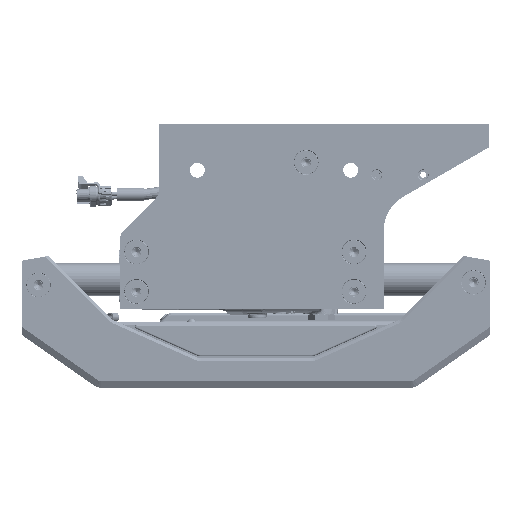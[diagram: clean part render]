
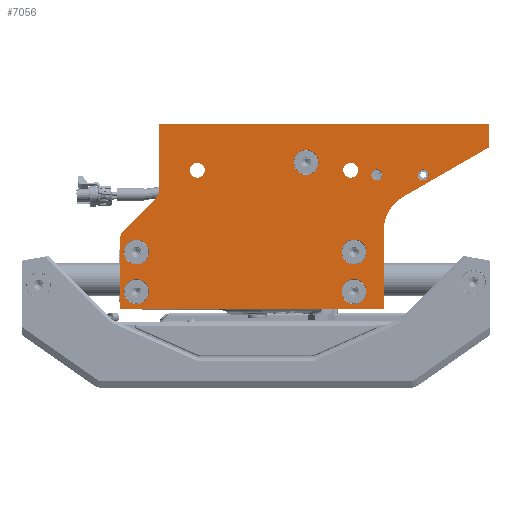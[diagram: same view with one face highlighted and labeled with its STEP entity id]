
A CAD part, left-side view. The second image highlights one B-rep face of the part: STEP entity #7056.
In plain terms, the highlighted planar face has unit normal (-1, 0, 0) as drawn and (1, 0, 0) by its records, which use the part's own axes.
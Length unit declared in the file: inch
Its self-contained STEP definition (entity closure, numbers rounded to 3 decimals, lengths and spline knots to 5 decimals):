
#5379=DIRECTION('',(0.,0.,1.));
#5380=VECTOR('',#5379,0.875);
#5381=CARTESIAN_POINT('',(0.,0.,0.));
#5382=LINE('',#5381,#5380);
#5627=CARTESIAN_POINT('',(0.,5.125,6.35));
#5628=DIRECTION('',(-1.,0.,0.));
#5629=DIRECTION('',(0.,-1.,0.));
#5630=AXIS2_PLACEMENT_3D('',#5627,#5628,#5629);
#5632=CARTESIAN_POINT('',(0.,5.125,6.35));
#5633=DIRECTION('',(-1.,0.,0.));
#5634=DIRECTION('',(0.,1.,0.));
#5635=AXIS2_PLACEMENT_3D('',#5632,#5633,#5634);
#5637=CARTESIAN_POINT('',(0.,13.375,6.35));
#5638=DIRECTION('',(-1.,0.,0.));
#5639=DIRECTION('',(0.,-1.,0.));
#5640=AXIS2_PLACEMENT_3D('',#5637,#5638,#5639);
#5642=CARTESIAN_POINT('',(0.,13.375,6.35));
#5643=DIRECTION('',(-1.,0.,0.));
#5644=DIRECTION('',(0.,1.,0.));
#5645=AXIS2_PLACEMENT_3D('',#5642,#5643,#5644);
#5647=CARTESIAN_POINT('',(0.,5.125,4.85));
#5648=DIRECTION('',(-1.,0.,0.));
#5649=DIRECTION('',(0.,-1.,0.));
#5650=AXIS2_PLACEMENT_3D('',#5647,#5648,#5649);
#5652=CARTESIAN_POINT('',(0.,5.125,4.85));
#5653=DIRECTION('',(-1.,0.,0.));
#5654=DIRECTION('',(0.,1.,0.));
#5655=AXIS2_PLACEMENT_3D('',#5652,#5653,#5654);
#5657=CARTESIAN_POINT('',(0.,13.375,4.85));
#5658=DIRECTION('',(-1.,0.,0.));
#5659=DIRECTION('',(0.,-1.,0.));
#5660=AXIS2_PLACEMENT_3D('',#5657,#5658,#5659);
#5662=CARTESIAN_POINT('',(0.,13.375,4.85));
#5663=DIRECTION('',(-1.,0.,0.));
#5664=DIRECTION('',(0.,1.,0.));
#5665=AXIS2_PLACEMENT_3D('',#5662,#5663,#5664);
#5667=CARTESIAN_POINT('',(0.,11.065,1.75));
#5668=DIRECTION('',(-1.,0.,0.));
#5669=DIRECTION('',(0.,0.,1.));
#5670=AXIS2_PLACEMENT_3D('',#5667,#5668,#5669);
#5672=CARTESIAN_POINT('',(0.,11.065,1.75));
#5673=DIRECTION('',(-1.,0.,0.));
#5674=DIRECTION('',(0.,0.,-1.));
#5675=AXIS2_PLACEMENT_3D('',#5672,#5673,#5674);
#5677=CARTESIAN_POINT('',(0.,5.25,1.75));
#5678=DIRECTION('',(-1.,0.,0.));
#5679=DIRECTION('',(0.,0.,1.));
#5680=AXIS2_PLACEMENT_3D('',#5677,#5678,#5679);
#5682=CARTESIAN_POINT('',(0.,5.25,1.75));
#5683=DIRECTION('',(-1.,0.,0.));
#5684=DIRECTION('',(0.,0.,-1.));
#5685=AXIS2_PLACEMENT_3D('',#5682,#5683,#5684);
#5687=CARTESIAN_POINT('',(0.,6.94,1.45));
#5688=DIRECTION('',(1.,0.,0.));
#5689=DIRECTION('',(0.,0.,1.));
#5690=AXIS2_PLACEMENT_3D('',#5687,#5688,#5689);
#5692=CARTESIAN_POINT('',(0.,6.94,1.45));
#5693=DIRECTION('',(1.,0.,0.));
#5694=DIRECTION('',(0.,0.,-1.));
#5695=AXIS2_PLACEMENT_3D('',#5692,#5693,#5694);
#5697=CARTESIAN_POINT('',(0.,4.25834,1.92126));
#5698=DIRECTION('',(1.,0.,0.));
#5699=DIRECTION('',(0.,-1.,0.));
#5700=AXIS2_PLACEMENT_3D('',#5697,#5698,#5699);
#5702=CARTESIAN_POINT('',(0.,4.25834,1.92126));
#5703=DIRECTION('',(1.,0.,0.));
#5704=DIRECTION('',(0.,1.,0.));
#5705=AXIS2_PLACEMENT_3D('',#5702,#5703,#5704);
#5707=CARTESIAN_POINT('',(0.,2.5,1.92126));
#5708=DIRECTION('',(1.,0.,0.));
#5709=DIRECTION('',(0.,-1.,0.));
#5710=AXIS2_PLACEMENT_3D('',#5707,#5708,#5709);
#5712=CARTESIAN_POINT('',(0.,2.5,1.92126));
#5713=DIRECTION('',(1.,0.,0.));
#5714=DIRECTION('',(0.,1.,0.));
#5715=AXIS2_PLACEMENT_3D('',#5712,#5713,#5714);
#5717=DIRECTION('',(0.,0.,1.));
#5718=VECTOR('',#5717,2.46289);
#5719=CARTESIAN_POINT('',(0.,12.5,0.));
#5720=LINE('',#5719,#5718);
#5721=DIRECTION('',(0.,1.,0.));
#5722=VECTOR('',#5721,12.5);
#5723=CARTESIAN_POINT('',(0.,0.,0.));
#5724=LINE('',#5723,#5722);
#5725=DIRECTION('',(0.,-0.866,-0.5));
#5726=VECTOR('',#5725,3.75278);
#5727=CARTESIAN_POINT('',(0.,3.25,2.75139));
#5728=LINE('',#5727,#5726);
#5729=CARTESIAN_POINT('',(0.,2.5,4.05043));
#5730=DIRECTION('',(-1.,0.,0.));
#5731=DIRECTION('',(0.,1.,0.));
#5732=AXIS2_PLACEMENT_3D('',#5729,#5730,#5731);
#5734=DIRECTION('',(0.,0.,-1.));
#5735=VECTOR('',#5734,2.94957);
#5736=CARTESIAN_POINT('',(0.,4.,7.));
#5737=LINE('',#5736,#5735);
#5738=DIRECTION('',(0.,1.,0.));
#5739=VECTOR('',#5738,10.);
#5740=CARTESIAN_POINT('',(0.,4.,7.));
#5741=LINE('',#5740,#5739);
#5742=CARTESIAN_POINT('',(0.,13.5,4.37711));
#5743=DIRECTION('',(-1.,0.,0.));
#5744=DIRECTION('',(0.,1.,0.));
#5745=AXIS2_PLACEMENT_3D('',#5742,#5743,#5744);
#5747=DIRECTION('',(0.,0.707,0.707));
#5748=VECTOR('',#5747,1.70711);
#5749=CARTESIAN_POINT('',(0.,12.64645,2.81645));
#5750=LINE('',#5749,#5748);
#6278=CARTESIAN_POINT('',(0.,13.,2.46289));
#6279=DIRECTION('',(1.,0.,0.));
#6280=DIRECTION('',(0.,-0.707,0.707));
#6281=AXIS2_PLACEMENT_3D('',#6278,#6279,#6280);
#6287=DIRECTION('',(0.,0.,1.));
#6288=VECTOR('',#6287,2.62289);
#6289=CARTESIAN_POINT('',(0.,14.,4.37711));
#6290=LINE('',#6289,#6288);
#6361=CARTESIAN_POINT('',(0.,14.,7.));
#6363=VERTEX_POINT('',#6361);
#6370=CARTESIAN_POINT('',(0.,0.,0.));
#6371=CARTESIAN_POINT('',(0.,12.5,0.));
#6372=VERTEX_POINT('',#6370);
#6373=VERTEX_POINT('',#6371);
#6375=CARTESIAN_POINT('',(0.,0.,0.875));
#6377=VERTEX_POINT('',#6375);
#6386=CARTESIAN_POINT('',(0.,3.25,2.75139));
#6387=VERTEX_POINT('',#6386);
#6388=CARTESIAN_POINT('',(0.,4.,7.));
#6389=CARTESIAN_POINT('',(0.,4.,4.05043));
#6390=VERTEX_POINT('',#6388);
#6391=VERTEX_POINT('',#6389);
#6417=CARTESIAN_POINT('',(0.,4.6525,6.35));
#6419=VERTEX_POINT('',#6417);
#6421=CARTESIAN_POINT('',(0.,5.5975,6.35));
#6423=VERTEX_POINT('',#6421);
#6425=CARTESIAN_POINT('',(0.,12.9025,6.35));
#6427=VERTEX_POINT('',#6425);
#6429=CARTESIAN_POINT('',(0.,13.8475,6.35));
#6431=VERTEX_POINT('',#6429);
#6433=CARTESIAN_POINT('',(0.,4.6525,4.85));
#6435=VERTEX_POINT('',#6433);
#6437=CARTESIAN_POINT('',(0.,5.5975,4.85));
#6439=VERTEX_POINT('',#6437);
#6441=CARTESIAN_POINT('',(0.,12.9025,4.85));
#6443=VERTEX_POINT('',#6441);
#6445=CARTESIAN_POINT('',(0.,13.8475,4.85));
#6447=VERTEX_POINT('',#6445);
#6488=CARTESIAN_POINT('',(0.,14.,4.37711));
#6489=CARTESIAN_POINT('',(0.,13.85355,4.02355));
#6490=VERTEX_POINT('',#6488);
#6491=VERTEX_POINT('',#6489);
#6504=CARTESIAN_POINT('',(0.,11.065,2.0315));
#6505=VERTEX_POINT('',#6504);
#6506=CARTESIAN_POINT('',(0.,11.065,1.4685));
#6507=VERTEX_POINT('',#6506);
#6508=CARTESIAN_POINT('',(0.,5.25,2.0315));
#6509=VERTEX_POINT('',#6508);
#6510=CARTESIAN_POINT('',(0.,5.25,1.4685));
#6511=VERTEX_POINT('',#6510);
#6540=CARTESIAN_POINT('',(0.,6.94,1.9225));
#6541=CARTESIAN_POINT('',(0.,6.94,0.9775));
#6542=VERTEX_POINT('',#6540);
#6543=VERTEX_POINT('',#6541);
#6544=CARTESIAN_POINT('',(0.,12.64645,2.81645));
#6546=VERTEX_POINT('',#6544);
#6548=CARTESIAN_POINT('',(0.,12.5,2.46289));
#6550=VERTEX_POINT('',#6548);
#6616=CARTESIAN_POINT('',(0.,4.05084,1.92126));
#6617=CARTESIAN_POINT('',(0.,4.46584,1.92126));
#6618=VERTEX_POINT('',#6616);
#6619=VERTEX_POINT('',#6617);
#6624=CARTESIAN_POINT('',(0.,2.2925,1.92126));
#6625=CARTESIAN_POINT('',(0.,2.7075,1.92126));
#6626=VERTEX_POINT('',#6624);
#6627=VERTEX_POINT('',#6625);
#6976=CARTESIAN_POINT('',(0.,0.,0.));
#6977=DIRECTION('',(-1.,0.,0.));
#6978=DIRECTION('',(0.,0.,1.));
#6979=AXIS2_PLACEMENT_3D('',#6976,#6977,#6978);
#6980=PLANE('',#6979);
#6981=ORIENTED_EDGE('',*,*,#6964,.F.);
#6982=ORIENTED_EDGE('',*,*,#6804,.F.);
#6983=ORIENTED_EDGE('',*,*,#6645,.T.);
#6985=ORIENTED_EDGE('',*,*,#6984,.F.);
#6987=ORIENTED_EDGE('',*,*,#6986,.F.);
#6989=ORIENTED_EDGE('',*,*,#6988,.F.);
#6991=ORIENTED_EDGE('',*,*,#6990,.T.);
#6993=ORIENTED_EDGE('',*,*,#6992,.F.);
#6995=ORIENTED_EDGE('',*,*,#6994,.T.);
#6997=ORIENTED_EDGE('',*,*,#6996,.F.);
#6999=ORIENTED_EDGE('',*,*,#6998,.T.);
#7000=EDGE_LOOP('',(#6981,#6982,#6983,#6985,#6987,#6989,#6991,#6993,#6995,#6997,
#6999));
#7001=FACE_OUTER_BOUND('',#7000,.F.);
#7003=ORIENTED_EDGE('',*,*,#7002,.F.);
#7005=ORIENTED_EDGE('',*,*,#7004,.F.);
#7006=EDGE_LOOP('',(#7003,#7005));
#7007=FACE_BOUND('',#7006,.F.);
#7009=ORIENTED_EDGE('',*,*,#7008,.F.);
#7011=ORIENTED_EDGE('',*,*,#7010,.F.);
#7012=EDGE_LOOP('',(#7009,#7011));
#7013=FACE_BOUND('',#7012,.F.);
#7015=ORIENTED_EDGE('',*,*,#7014,.F.);
#7017=ORIENTED_EDGE('',*,*,#7016,.F.);
#7018=EDGE_LOOP('',(#7015,#7017));
#7019=FACE_BOUND('',#7018,.F.);
#7021=ORIENTED_EDGE('',*,*,#7020,.F.);
#7023=ORIENTED_EDGE('',*,*,#7022,.F.);
#7024=EDGE_LOOP('',(#7021,#7023));
#7025=FACE_BOUND('',#7024,.F.);
#7027=ORIENTED_EDGE('',*,*,#7026,.F.);
#7029=ORIENTED_EDGE('',*,*,#7028,.F.);
#7030=EDGE_LOOP('',(#7027,#7029));
#7031=FACE_BOUND('',#7030,.F.);
#7033=ORIENTED_EDGE('',*,*,#7032,.T.);
#7035=ORIENTED_EDGE('',*,*,#7034,.T.);
#7036=EDGE_LOOP('',(#7033,#7035));
#7037=FACE_BOUND('',#7036,.F.);
#7039=ORIENTED_EDGE('',*,*,#7038,.T.);
#7041=ORIENTED_EDGE('',*,*,#7040,.T.);
#7042=EDGE_LOOP('',(#7039,#7041));
#7043=FACE_BOUND('',#7042,.F.);
#7045=ORIENTED_EDGE('',*,*,#7044,.T.);
#7047=ORIENTED_EDGE('',*,*,#7046,.T.);
#7048=EDGE_LOOP('',(#7045,#7047));
#7049=FACE_BOUND('',#7048,.F.);
#7051=ORIENTED_EDGE('',*,*,#7050,.F.);
#7053=ORIENTED_EDGE('',*,*,#7052,.F.);
#7054=EDGE_LOOP('',(#7051,#7053));
#7055=FACE_BOUND('',#7054,.F.);
#7056=ADVANCED_FACE('',(#7001,#7007,#7013,#7019,#7025,#7031,#7037,#7043,#7049,
#7055),#6980,.F.);
#5631=CIRCLE('',#5630,0.4725);
#5636=CIRCLE('',#5635,0.4725);
#5641=CIRCLE('',#5640,0.4725);
#5646=CIRCLE('',#5645,0.4725);
#5651=CIRCLE('',#5650,0.4725);
#5656=CIRCLE('',#5655,0.4725);
#5661=CIRCLE('',#5660,0.4725);
#5666=CIRCLE('',#5665,0.4725);
#5671=CIRCLE('',#5670,0.2815);
#5676=CIRCLE('',#5675,0.2815);
#5681=CIRCLE('',#5680,0.2815);
#5686=CIRCLE('',#5685,0.2815);
#5691=CIRCLE('',#5690,0.4725);
#5696=CIRCLE('',#5695,0.4725);
#5701=CIRCLE('',#5700,0.2075);
#5706=CIRCLE('',#5705,0.2075);
#5711=CIRCLE('',#5710,0.2075);
#5716=CIRCLE('',#5715,0.2075);
#5733=CIRCLE('',#5732,1.5);
#5746=CIRCLE('',#5745,0.5);
#6282=CIRCLE('',#6281,0.5);
#6645=EDGE_CURVE('',#6372,#6377,#5382,.T.);
#6804=EDGE_CURVE('',#6372,#6373,#5724,.T.);
#6964=EDGE_CURVE('',#6373,#6550,#5720,.T.);
#6984=EDGE_CURVE('',#6387,#6377,#5728,.T.);
#6986=EDGE_CURVE('',#6391,#6387,#5733,.T.);
#6988=EDGE_CURVE('',#6390,#6391,#5737,.T.);
#6990=EDGE_CURVE('',#6390,#6363,#5741,.T.);
#6992=EDGE_CURVE('',#6490,#6363,#6290,.T.);
#6994=EDGE_CURVE('',#6490,#6491,#5746,.T.);
#6996=EDGE_CURVE('',#6546,#6491,#5750,.T.);
#6998=EDGE_CURVE('',#6546,#6550,#6282,.T.);
#7002=EDGE_CURVE('',#6427,#6431,#5641,.T.);
#7004=EDGE_CURVE('',#6431,#6427,#5646,.T.);
#7008=EDGE_CURVE('',#6435,#6439,#5651,.T.);
#7010=EDGE_CURVE('',#6439,#6435,#5656,.T.);
#7014=EDGE_CURVE('',#6443,#6447,#5661,.T.);
#7016=EDGE_CURVE('',#6447,#6443,#5666,.T.);
#7020=EDGE_CURVE('',#6505,#6507,#5671,.T.);
#7022=EDGE_CURVE('',#6507,#6505,#5676,.T.);
#7026=EDGE_CURVE('',#6509,#6511,#5681,.T.);
#7028=EDGE_CURVE('',#6511,#6509,#5686,.T.);
#7032=EDGE_CURVE('',#6542,#6543,#5691,.T.);
#7034=EDGE_CURVE('',#6543,#6542,#5696,.T.);
#7038=EDGE_CURVE('',#6618,#6619,#5701,.T.);
#7040=EDGE_CURVE('',#6619,#6618,#5706,.T.);
#7044=EDGE_CURVE('',#6626,#6627,#5711,.T.);
#7046=EDGE_CURVE('',#6627,#6626,#5716,.T.);
#7050=EDGE_CURVE('',#6419,#6423,#5631,.T.);
#7052=EDGE_CURVE('',#6423,#6419,#5636,.T.);
